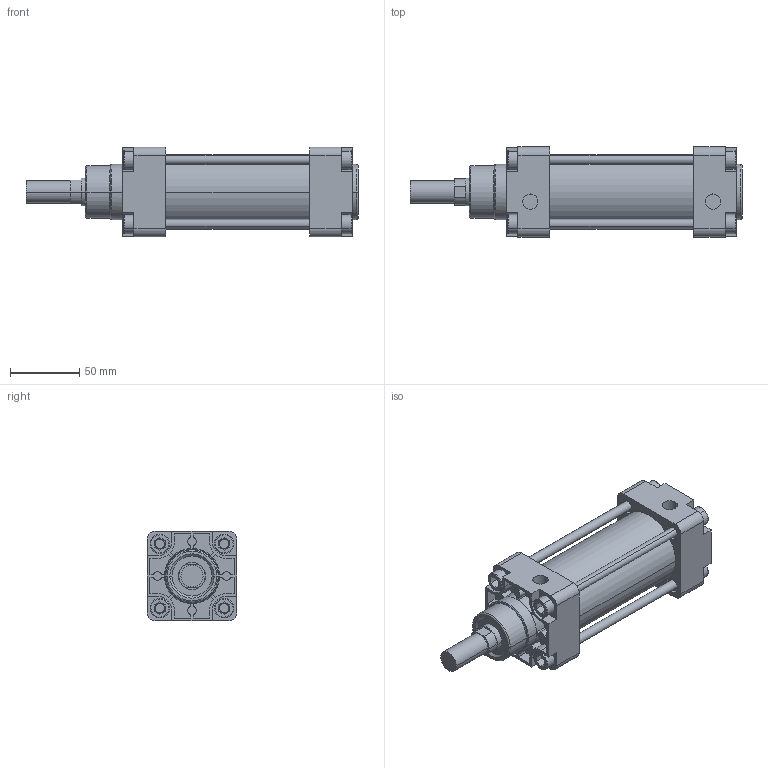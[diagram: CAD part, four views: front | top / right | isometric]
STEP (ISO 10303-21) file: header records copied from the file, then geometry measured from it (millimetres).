
FILE_DESCRIPTION(('CATIA V5 STEP Exchange'),'2;1');
FILE_NAME('D:\stp file for catalog\PNC\50\PNC 50-20-60.stp','2015-10-13T06:43:35+00:00',('none'),('none'),'Version 5-6 Release 2012','CATIA V5 STEP AP203','none');
FILE_SCHEMA(('CONFIG_CONTROL_DESIGN'));
Length unit declared in the file: millimetre
Products named in the file (1): PNC 50-20-60-00
Assembly tree (2 placements, depth 2):
  PNC 50-20-60-00
    #58
    #14116
Bounding box: 240 x 65 x 65 mm (x, y, z)
Volume: 414721 mm3; surface area: 132098.2 mm2
Topology: 6 solids, 6 shells, 536 faces, 1334 edges, 870 vertices
Faces by surface type: plane 324, cylinder 168, torus 26, extrusion 16, cone 2
Entity records: 14540 total; most frequent: CARTESIAN_POINT 2873, ORIENTED_EDGE 2668, DIRECTION 1792, EDGE_CURVE 1334, VECTOR 878, VERTEX_POINT 870, LINE 862, AXIS2_PLACEMENT_3D 661
